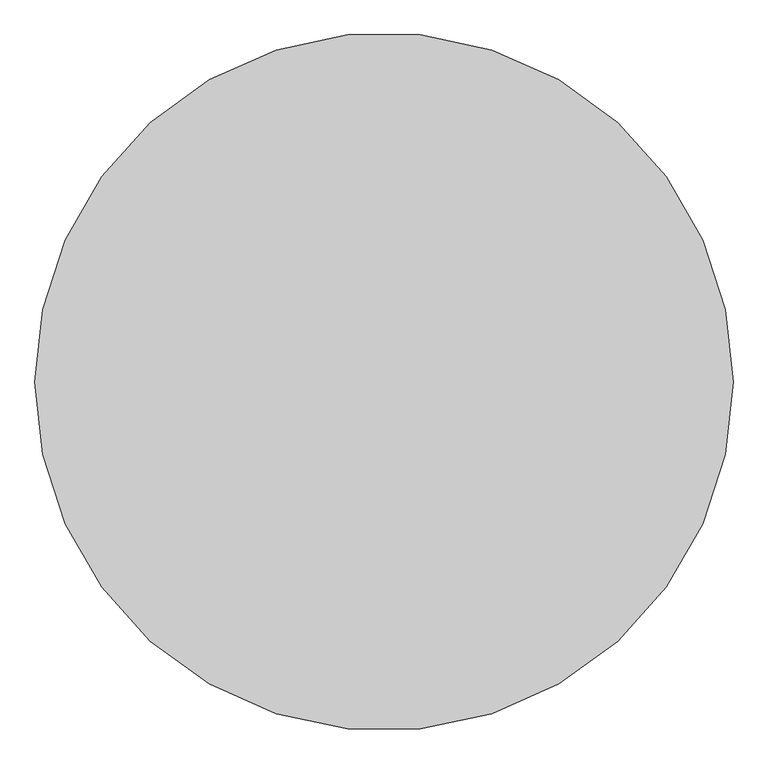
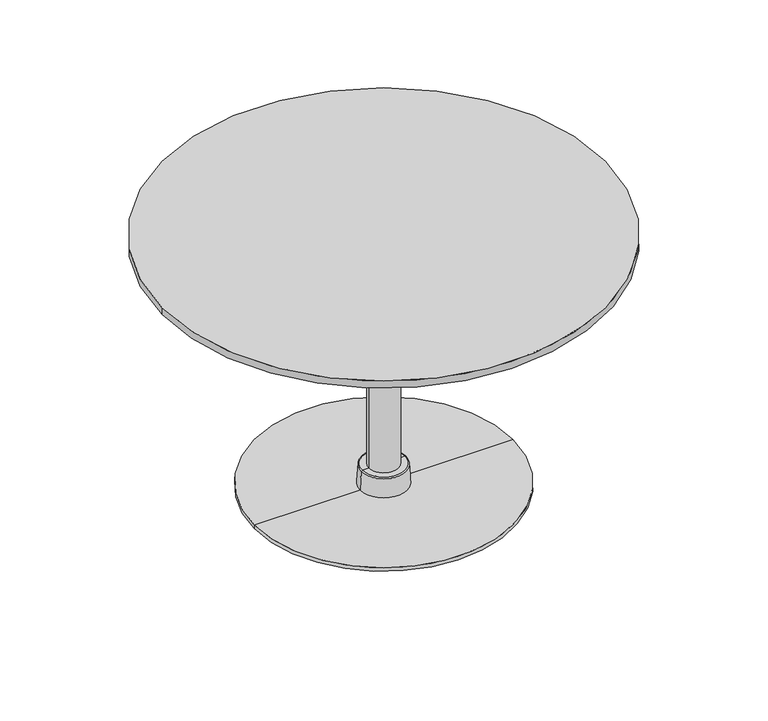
"""IFC4 building model written with IfcOpenShell, lengths in millimetres: furniture geometry, Fredericia - Plan Column Table - Ø120 - H73 - 6622 : Fredericia - Plan Column Table - Ø120 - H73 - 6622."""

from ifc_helpers import new_model, si_unit, point, frame, origin, origin_2d, place, context, project, spatial, polyline, circle_curve, ellipse_curve, trimmed, segment, composite_curve, outline, extrude, source, transform, mapped, element, save
from ifc_brep_helpers import plane_surface, cylinder_surface, revolved_surface, advanced_brep


def furniture_d20f64bd(model_context):
    return source(origin(), model_context, "Body", "SolidModel", [
        advanced_brep(
        [(0.0, 0.0, 0.0), (-350.0, 0.0, 0.0), (350.0, 0.0, 0.0), (295.0, 0.0, 700.0), (-295.0, 0.0, 700.0), (0.0, 0.0, 700.0), (295.0, 0.0, 695.0), (-295.0, 0.0, 695.0), (40.0, 0.0, 695.0), (-40.0, 0.0, 695.0), (40.0, 0.0, 65.0), (-40.0, 0.0, 65.0), (57.1367795, 0.0, 65.0), (-57.1367795, 0.0, 65.0), (60.1294716, 0.0, 62.2092694), (-60.1294716, 0.0, 62.2092694), (63.7802994, 0.0, 10.0), (-63.7802994, 0.0, 10.0), (350.0, 0.0, 10.0), (-350.0, 0.0, 10.0)],
        [
            (0, 1),
            (1, 2, circle_curve(frame((0.0, 0.0, 0.0), z_axis=(0.0, 0.0, -1.0), x_axis=(-1.0, 0.0, 0.0)), 350.0)),
            (2, 0),
            (2, 1, circle_curve(frame((0.0, 0.0, 0.0), z_axis=(0.0, 0.0, -1.0), x_axis=(-1.0, 0.0, 0.0)), 350.0)),
            (3, 4, circle_curve(frame((0.0, 0.0, 700.0), z_axis=(0.0, 0.0, 1.0), x_axis=(-1.0, 0.0, 0.0)), 295.0)),
            (4, 5),
            (5, 3),
            (4, 3, circle_curve(frame((0.0, 0.0, 700.0), z_axis=(0.0, 0.0, 1.0), x_axis=(-1.0, 0.0, 0.0)), 295.0)),
            (6, 7, circle_curve(frame((0.0, 0.0, 695.0), z_axis=(0.0, 0.0, 1.0), x_axis=(-1.0, 0.0, 0.0)), 295.0)),
            (7, 4),
            (3, 6),
            (7, 6, circle_curve(frame((0.0, 0.0, 695.0), z_axis=(0.0, 0.0, 1.0), x_axis=(-1.0, 0.0, 0.0)), 295.0)),
            (8, 9, circle_curve(frame((0.0, 0.0, 695.0), z_axis=(0.0, 0.0, 1.0), x_axis=(-1.0, 0.0, 0.0)), 40.0)),
            (9, 7),
            (6, 8),
            (9, 8, circle_curve(frame((0.0, 0.0, 695.0), z_axis=(0.0, 0.0, 1.0), x_axis=(-1.0, 0.0, 0.0)), 40.0)),
            (10, 11, circle_curve(frame((0.0, 0.0, 65.0), z_axis=(0.0, 0.0, 1.0), x_axis=(-1.0, 0.0, 0.0)), 40.0)),
            (11, 9),
            (8, 10),
            (11, 10, circle_curve(frame((0.0, 0.0, 65.0), z_axis=(0.0, 0.0, 1.0), x_axis=(-1.0, 0.0, 0.0)), 40.0)),
            (12, 13, circle_curve(frame((0.0, 0.0, 65.0), z_axis=(0.0, 0.0, 1.0), x_axis=(-1.0, 0.0, 0.0)), 57.1367795)),
            (13, 11),
            (10, 12),
            (13, 12, circle_curve(frame((0.0, 0.0, 65.0), z_axis=(0.0, 0.0, 1.0), x_axis=(-1.0, 0.0, 0.0)), 57.1367795)),
            (14, 15, circle_curve(frame((0.0, 0.0, 62.2092694), z_axis=(0.0, 0.0, 1.0), x_axis=(-1.0, 0.0, 0.0)), 60.1294716)),
            (15, 13, circle_curve(frame((-57.1367795, 0.0, 62.0), z_axis=(0.0, 1.0, 0.0), x_axis=(1.0, 0.0, 0.0)), 3.0)),
            (12, 14, circle_curve(frame((57.1367795, 0.0, 62.0), z_axis=(0.0, 1.0, 0.0), x_axis=(-1.0, 0.0, 0.0)), 3.0)),
            (15, 14, circle_curve(frame((0.0, 0.0, 62.2092694), z_axis=(0.0, 0.0, 1.0), x_axis=(-1.0, 0.0, 0.0)), 60.1294716)),
            (16, 17, circle_curve(frame((0.0, 0.0, 10.0), z_axis=(0.0, 0.0, 1.0), x_axis=(-1.0, 0.0, 0.0)), 63.7802994)),
            (17, 15),
            (14, 16),
            (17, 16, circle_curve(frame((0.0, 0.0, 10.0), z_axis=(0.0, 0.0, 1.0), x_axis=(-1.0, 0.0, 0.0)), 63.7802994)),
            (18, 19, circle_curve(frame((0.0, 0.0, 10.0), z_axis=(0.0, 0.0, 1.0), x_axis=(-1.0, 0.0, 0.0)), 350.0)),
            (19, 17),
            (16, 18),
            (19, 18, circle_curve(frame((0.0, 0.0, 10.0), z_axis=(0.0, 0.0, 1.0), x_axis=(-1.0, 0.0, 0.0)), 350.0)),
            (1, 19),
            (18, 2),
        ],
        [
            plane_surface(frame((0.0, 0.0, 0.0), z_axis=(0.0, 0.0, -1.0), x_axis=(-1.0, 0.0, 0.0))),
            plane_surface(frame((0.0, 0.0, 700.0), z_axis=(0.0, 0.0, 1.0), x_axis=(-1.0, 0.0, 0.0))),
            cylinder_surface(frame((0.0, 0.0, 780.0), z_axis=(0.0, 0.0, -1.0), x_axis=(-1.0, 0.0, 0.0)), 295.0),
            plane_surface(frame((0.0, 0.0, 695.0), z_axis=(0.0, 0.0, -1.0), x_axis=(-1.0, 0.0, 0.0))),
            cylinder_surface(frame((0.0, 0.0, 780.0), z_axis=(0.0, 0.0, -1.0), x_axis=(-1.0, 0.0, 0.0)), 40.0),
            plane_surface(frame((0.0, 0.0, 65.0), z_axis=(0.0, 0.0, 1.0), x_axis=(-1.0, 0.0, 0.0))),
            revolved_surface(trimmed(ellipse_curve(frame((-57.1367795, 0.0, 62.0), z_axis=(0.0, -1.0, 0.0), x_axis=(1.0, 0.0, 0.0)), 3.0, 3.0), [point((-57.1367795, 0.0, 65.0))], [point((-60.1294716, 0.0, 62.2092694))], True, "CARTESIAN"), (0.0, 0.0, 780.0), (0.0, 0.0, -1.0)),
            revolved_surface(polyline([(-60.1294716, 0.0, 62.2092694), (-63.7802994, 0.0, 10.0)]), (0.0, 0.0, 780.0), (0.0, 0.0, -1.0)),
            plane_surface(frame((0.0, 0.0, 10.0), z_axis=(0.0, 0.0, 1.0), x_axis=(-1.0, 0.0, 0.0))),
            cylinder_surface(frame((0.0, 0.0, 780.0), z_axis=(0.0, 0.0, -1.0), x_axis=(-1.0, 0.0, 0.0)), 350.0),
        ],
        [
            (0, [[1, 2, 3]]),
            (0, [[-3, 4, -1]]),
            (1, [[5, 6, 7]]),
            (1, [[8, -7, -6]]),
            (2, [[9, 10, -5, 11]]),
            (2, [[12, -11, -8, -10]]),
            (3, [[13, 14, -9, 15]]),
            (3, [[16, -15, -12, -14]]),
            (4, [[17, 18, -13, 19]]),
            (4, [[20, -19, -16, -18]]),
            (5, [[21, 22, -17, 23]]),
            (5, [[24, -23, -20, -22]]),
            (6, [[25, 26, -21, 27]]),
            (6, [[28, -27, -24, -26]]),
            (7, [[29, 30, -25, 31]]),
            (7, [[32, -31, -28, -30]]),
            (8, [[33, 34, -29, 35]]),
            (8, [[36, -35, -32, -34]]),
            (9, [[-2, 37, -33, 38]]),
            (9, [[-4, -38, -36, -37]]),
        ],
    ),
        extrude(outline(composite_curve([segment(trimmed(circle_curve(origin_2d(), 600.0), [point((-600.0, 0.0))], [point((600.0, 0.0))], False, "CARTESIAN"), True, "CONTINUOUS"), segment(trimmed(circle_curve(origin_2d(), 600.0), [point((600.0, 0.0))], [point((-600.0, 0.0))], False, "CARTESIAN"), True, "CONTINUOUS")], self_intersect=False)), frame((0.0, 0.0, 700.0), z_axis=(0.0, 0.0, 1.0), x_axis=(1.0, 0.0, 0.0)), (0.0, 0.0, 1.0), 20.0),
    ])


if __name__ == "__main__":
    model = new_model("IFC4")
    model_context = context("Model", 3, world=origin())
    ifc_project = project(units=[si_unit("LENGTHUNIT", "METRE", prefix="MILLI")], contexts=[model_context])
    site = spatial("IfcSite", under=ifc_project)
    building = spatial("IfcBuilding", under=site)
    placement = place(None, origin())
    furniture_shape = furniture_d20f64bd(model_context)
    element("IfcFurniture", 1, ObjectType="Fredericia - Plan Column Table - Ø120 - H73 - 6622 : Fredericia - Plan Column Table - Ø120 - H73 - 6622", at=placement, inside=building, context=model_context, shape_type="MappedRepresentation", body=[
        mapped(furniture_shape, transform((0.0, 0.0, 0.0), x_axis=(1.0, 0.0, 0.0), y_axis=(0.0, 1.0, 0.0), z_axis=(0.0, 0.0, 1.0))),
    ])
    save(model, "model.ifc")
